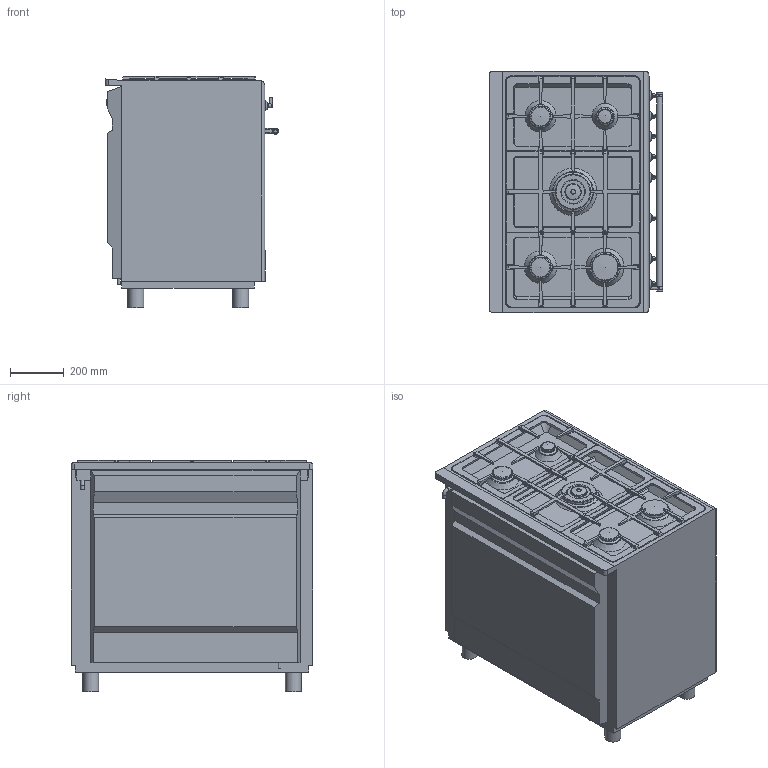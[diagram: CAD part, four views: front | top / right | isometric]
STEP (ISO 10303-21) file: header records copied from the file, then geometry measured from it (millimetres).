
FILE_DESCRIPTION(/* description */ ('Unknown'),/* implementation_level */ '2;1');
FILE_NAME(/* name */ 'CX91GMBL',/* time_stamp */ '2025-04-16T14:05:07+02:00',/* author */ ('Unknown'),/* organization */ ('Unknown'),/* preprocessor_version */ 'ST-DEVELOPER v16.7',/* originating_system */ 'DEX',/* authorisation */ $);
FILE_SCHEMA (('AUTOMOTIVE_DESIGN {1 0 10303 214 3 1 1}'));
Length unit declared in the file: millimetre
Products named in the file (1): CX91GMBL
Bounding box: 643.48 x 898 x 860.13 mm (x, y, z)
Volume: 365287592.1 mm3; surface area: 5306465.5 mm2
Topology: 5 solids, 5 shells, 766 faces, 2138 edges, 1437 vertices
Faces by surface type: plane 356, cylinder 285, bspline 68, cone 35, torus 19, sphere 3
Full cylindrical faces by diameter (mm): 4.608 x6, 8 x8, 8.5 x8, 10 x1, 13 x2, 13.5 x2, 14 x2, 14.995 x8, 22 x3, 55 x1, 59 x4, 60.611 x1, 65.5 x1, 75 x2, 85.5 x2, 85.7 x1, 100 x1, 110.5 x1, 131 x1, 147 x1
Entity records: 30302 total; most frequent: CARTESIAN_POINT 8561, ORIENTED_EDGE 3910, DIRECTION 3777, EDGE_CURVE 1955, AXIS2_PLACEMENT_3D 1378, VERTEX_POINT 1365, LINE 1021, VECTOR 1021
